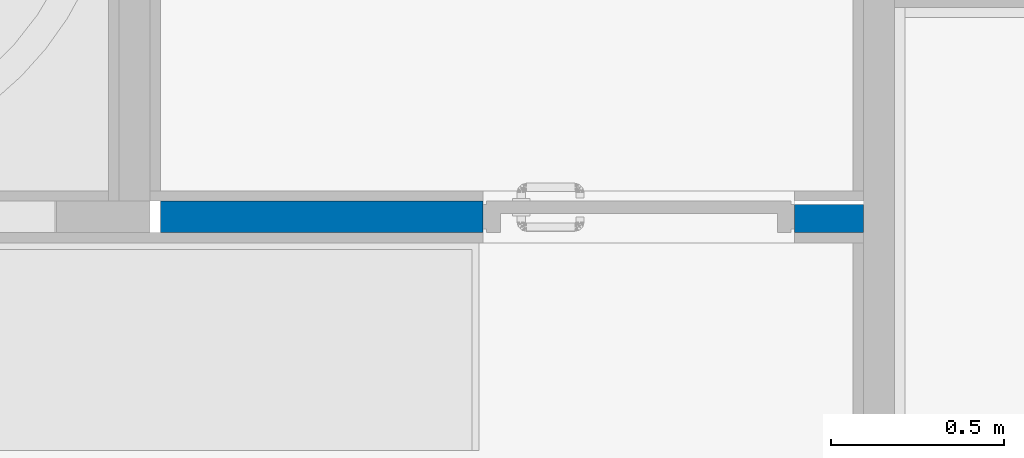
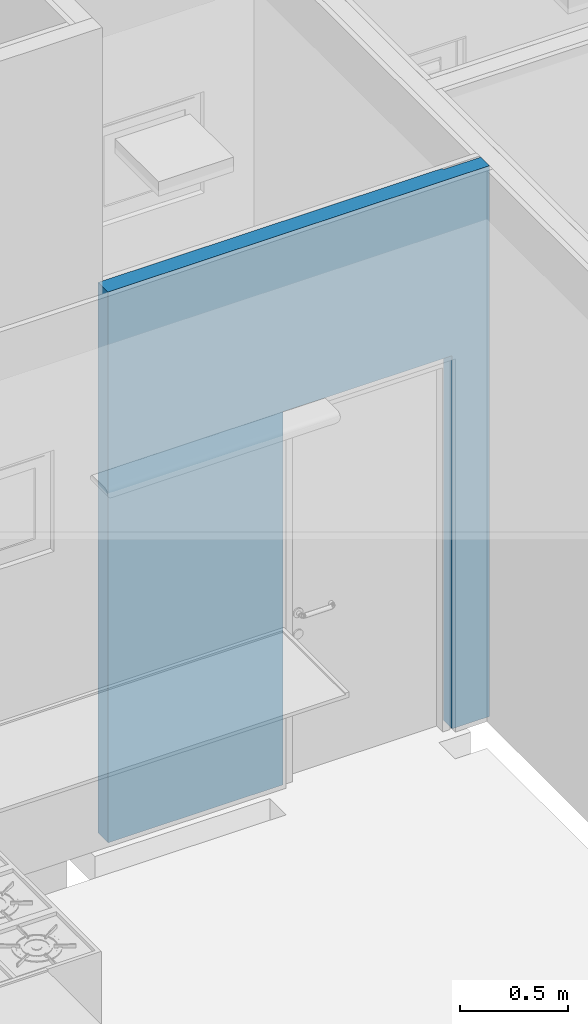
# One storey, part 41 of 155: 1 wall, 3 openings.
"""IFC2X3 building model written with IfcOpenShell, lengths in metres."""

from ifc_helpers import new_model, entity, si_unit, converted_unit, derived_unit, direction, frame, frame_2d, origin, origin_2d_with_axis, place, context, subcontext, project, spatial, polyline, rectangle, extrude, clip, bounded_halfspace, material, layer, layer_set, layer_usage, type_object, element, save


model = new_model("IFC2X3")

# Units and contexts
model_context = context("Model", 3, precision=1e-05, world=origin(), true_north=direction((6.12303176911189e-17, 1.0)))
body_context = subcontext(model_context, "Body", "Model", "MODEL_VIEW")
ifc_project = project(units=[si_unit("LENGTHUNIT", "METRE"), si_unit("AREAUNIT", "SQUARE_METRE"), si_unit("VOLUMEUNIT", "CUBIC_METRE"), converted_unit("PLANEANGLEUNIT", "DEGREE", entity("IfcRatioMeasure", 0.0174532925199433), si_unit("PLANEANGLEUNIT", "RADIAN"), dimensions=[0, 0, 0, 0, 0, 0, 0]), si_unit("MASSUNIT", "GRAM", prefix="KILO"), derived_unit("MASSDENSITYUNIT", [(si_unit("MASSUNIT", "GRAM", prefix="KILO"), 1), (si_unit("LENGTHUNIT", "METRE"), -3)]), si_unit("TIMEUNIT", "SECOND"), si_unit("FREQUENCYUNIT", "HERTZ"), si_unit("THERMODYNAMICTEMPERATUREUNIT", "DEGREE_CELSIUS"), derived_unit("THERMALTRANSMITTANCEUNIT", [(si_unit("MASSUNIT", "GRAM", prefix="KILO"), 1), (si_unit("THERMODYNAMICTEMPERATUREUNIT", "KELVIN"), -1), (si_unit("TIMEUNIT", "SECOND"), -3)]), derived_unit("VOLUMETRICFLOWRATEUNIT", [(si_unit("LENGTHUNIT", "METRE"), 3), (si_unit("TIMEUNIT", "SECOND"), -1)]), si_unit("ELECTRICCURRENTUNIT", "AMPERE"), si_unit("ELECTRICVOLTAGEUNIT", "VOLT"), si_unit("POWERUNIT", "WATT"), si_unit("FORCEUNIT", "NEWTON", prefix="KILO"), si_unit("ILLUMINANCEUNIT", "LUX"), si_unit("LUMINOUSFLUXUNIT", "LUMEN"), si_unit("LUMINOUSINTENSITYUNIT", "CANDELA"), derived_unit("USERDEFINED", [(si_unit("MASSUNIT", "GRAM", prefix="KILO"), -1), (si_unit("LENGTHUNIT", "METRE"), -2), (si_unit("TIMEUNIT", "SECOND"), 3), (si_unit("LUMINOUSFLUXUNIT", "LUMEN"), 1)]), derived_unit("LINEARVELOCITYUNIT", [(si_unit("LENGTHUNIT", "METRE"), 1), (si_unit("TIMEUNIT", "SECOND"), -1)]), si_unit("PRESSUREUNIT", "PASCAL"), derived_unit("USERDEFINED", [(si_unit("LENGTHUNIT", "METRE"), -2), (si_unit("MASSUNIT", "GRAM", prefix="KILO"), 1), (si_unit("TIMEUNIT", "SECOND"), -2)])], contexts=[model_context])

# Site, building, storey
site_placement = place(None, frame((26.9889013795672, -17.5624287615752, 0.0)))
site = spatial("IfcSite", under=ifc_project, at=site_placement, Name="Default", CompositionType="ELEMENT")
building_placement = place(site_placement, origin())
building = spatial("IfcBuilding", under=site, at=building_placement, Name="C. C. L. Monsenhor Antônio Sampaio", CompositionType="ELEMENT")
storey_placement = place(building_placement, frame((0.0, 0.0, 1.19999999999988)))
storey = spatial("IfcBuildingStorey", under=building, at=storey_placement, Name="Nível 1.2", CompositionType="ELEMENT", Elevation=1.19999999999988)

# Wall, openings
ifc_material = material(Name="ALVENARIA")
ifc_layer = layer(ifc_material, 0.09)
ifc_layer_set = layer_set([ifc_layer], Name="Parede básica:ENucleo parede 15cm")
ifc_layer_usage = layer_usage(ifc_layer_set, "AXIS2", "POSITIVE", -0.045)
wall_type = type_object("IfcWallType", Name="Parede básica:ENucleo parede 15cm", PredefinedType="STANDARD", material=ifc_layer_set)
wall_placement = place(storey_placement, frame((1.72944770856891, -10.8780663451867, 0.0)))
wall = element("IfcWallStandardCase", 1, at=wall_placement, inside=storey, type_object=wall_type, material=ifc_layer_usage, Name="Parede básica:ENucleo parede 15cm", ObjectType="Parede básica:ENucleo parede 15cm", context=body_context, shape_type="Clipping", body=[
    clip(clip(extrude(rectangle(XDim=2.03016826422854, YDim=0.0900000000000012, at=frame_2d((1.01508413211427, 0.0), x_axis=(-1.0, 0.0))), origin(), (0.0, 0.0, 1.0), 3.10000000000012), bounded_halfspace(frame((1.83141826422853, 0.0350000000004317, 0.0), z_axis=(0.0, -1.0, 0.0), x_axis=(1.0, 0.0, 0.0)), True, frame((1.83141826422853, 0.0350000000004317, 0.0), z_axis=(0.0, -1.0, 0.0), x_axis=(1.0, 0.0, 0.0)), polyline([(0.0, 0.0), (0.168750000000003, 0.0), (0.198750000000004, 0.0), (0.198750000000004, 3.10000000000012), (0.168750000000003, 3.10000000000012), (0.0, 3.10000000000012), (0.0, 2.09999999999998), (0.0, 0.0)]))), bounded_halfspace(frame((1.83141826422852, 0.0350000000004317, 3.10000000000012), z_axis=(-1.0, 0.0, 0.0), x_axis=(0.0, -1.0, 0.0)), True, frame((1.83141826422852, 0.0350000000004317, 3.10000000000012), z_axis=(-1.0, 0.0, 0.0), x_axis=(0.0, -1.0, 0.0)), polyline([(0.0, 0.0), (-0.00999999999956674, 0.0), (-0.00999999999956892, -1.0), (0.0, -1.0), (0.0, 0.0)]))),
])
opening_1_placement = place(wall_placement, origin())
element("IfcOpeningElement", 2, at=opening_1_placement, cuts=wall, Name="Parede básica:ENucleo parede 15cm", ObjectType="Opening", context=body_context, shape_type="SweptSolid", body=[
    extrude(rectangle(XDim=0.47000000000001, YDim=1.26999999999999, at=origin_2d_with_axis()), frame((-0.934999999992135, -1.569, 1.90000000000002), z_axis=(0.0, 1.0, 0.0), x_axis=(0.0, 0.0, 1.0)), (0.0, 0.0, 1.0), 3.048),
])
opening_2_placement = place(wall_placement, origin())
element("IfcOpeningElement", 3, at=opening_2_placement, cuts=wall, Name="Parede básica:ENucleo parede 15cm", ObjectType="Opening", context=body_context, shape_type="SweptSolid", body=[
    extrude(rectangle(XDim=0.570000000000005, YDim=1.56999999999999, at=frame_2d((5.27355936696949e-16, 0.0), x_axis=(1.0, 0.0))), frame((-1.08999999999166, -1.569, 2.05000000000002), z_axis=(0.0, 1.0, 0.0), x_axis=(0.0, 0.0, 1.0)), (0.0, 0.0, 1.0), 3.048),
])
opening_3_placement = place(wall_placement, frame((0.931418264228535, -0.0449999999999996, 0.0)))
element("IfcOpeningElement", 4, at=opening_3_placement, cuts=wall, Name="Porta levantamento:90 x 211 AZUL:1", ObjectType="Opening", context=body_context, shape_type="SweptSolid", body=[
    extrude(rectangle(XDim=2.09999999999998, YDim=0.9, at=frame_2d((1.04999999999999, 0.45), x_axis=(1.0, 0.0))), frame((0.0, 0.0, 0.0), z_axis=(0.0, 1.0, 0.0), x_axis=(0.0, 0.0, 1.0)), (0.0, 0.0, 1.0), 0.09),
])

save(model, "model.ifc")
